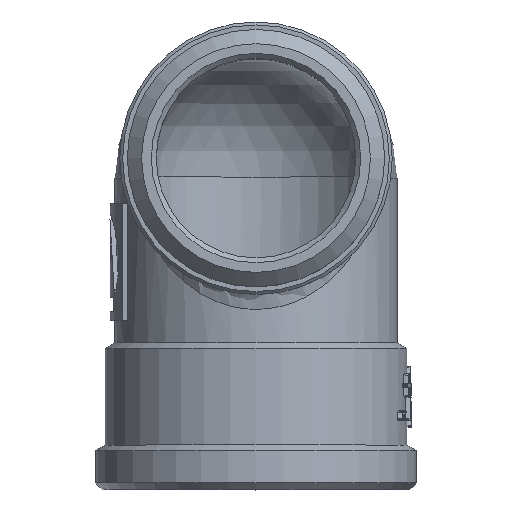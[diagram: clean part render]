
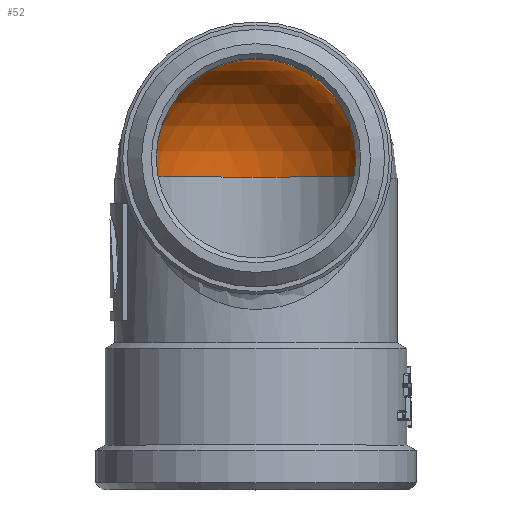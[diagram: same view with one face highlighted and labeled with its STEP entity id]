
A CAD part, top view. The second image highlights one B-rep face of the part: STEP entity #52.
In plain terms, the highlighted spherical face has radius 12.1 mm.
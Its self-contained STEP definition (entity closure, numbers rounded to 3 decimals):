
#52=ADVANCED_FACE('',(#376),#378,.F.);
#376=FACE_BOUND('',#377,.T.);
#377=EDGE_LOOP('',(#2515,#2516,#2517,#2518));
#378=SPHERICAL_SURFACE('',#379,12.1);
#379=AXIS2_PLACEMENT_3D('',#380,#381,#382);
#380=CARTESIAN_POINT('',(0.,-1.85,0.));
#381=DIRECTION('',(0.,-1.,0.));
#382=DIRECTION('',(1.,0.,0.));
#2515=ORIENTED_EDGE('',*,*,#4342,.T.);
#2516=ORIENTED_EDGE('',*,*,#4339,.F.);
#2517=ORIENTED_EDGE('',*,*,#4338,.F.);
#2518=ORIENTED_EDGE('',*,*,#4343,.T.);
#4338=EDGE_CURVE('',#5057,#5059,#5060,.T.);
#4339=EDGE_CURVE('',#5059,#5056,#5061,.F.);
#4342=EDGE_CURVE('',#5066,#5056,#5067,.T.);
#4343=EDGE_CURVE('',#5057,#5066,#5068,.T.);
#5056=VERTEX_POINT('',#6275);
#5057=VERTEX_POINT('',#6276);
#5059=VERTEX_POINT('',#6392);
#5060=B_SPLINE_CURVE_WITH_KNOTS('',3,
(#6393,#6394,#6395,#6396,#6397,#6398,#6399,#6400,#6401,#6402,#6403,#6404,#6405,#6406,
#6407,#6408,#6409,#6410,#6411,#6412,#6413,#6414,#6415,#6416,#6417,#6418,#6419,#6420,
#6421,#6422,#6423,#6424,#6425),
.UNSPECIFIED.,.F.,.F.,
(4,1,1,1,1,1,1,1,1,1,1,1,1,1,1,1,1,1,1,1,1,1,1,1,1,1,1,1,1,1,4),
(0.,0.014,0.027,0.041,0.055,
0.069,0.083,0.097,0.101,0.111,
0.126,0.14,0.155,0.17,0.186,
0.21,0.247,0.3,0.359,0.42,
0.479,0.535,0.591,0.648,0.71,
0.771,0.829,0.878,0.921,0.96,
1.),
.UNSPECIFIED.);
#5061=B_SPLINE_CURVE_WITH_KNOTS('',3,
(#6426,#6427,#6428,#6429,#6430,#6431,#6432,#6433,#6434,#6435,#6436,#6437,#6438,#6439,
#6440,#6441,#6442,#6443,#6444,#6445,#6446,#6447,#6448,#6449,#6450,#6451,#6452,#6453,
#6454,#6455,#6456,#6457,#6458),
.UNSPECIFIED.,.F.,.F.,
(4,1,1,1,1,1,1,1,1,1,1,1,1,1,1,1,1,1,1,1,1,1,1,1,1,1,1,1,1,1,4),
(0.,0.015,0.03,0.045,0.06,
0.076,0.091,0.101,0.106,0.122,
0.137,0.153,0.169,0.185,0.2,
0.226,0.263,0.317,0.376,0.438,
0.497,0.554,0.61,0.667,0.727,
0.786,0.841,0.887,0.926,0.963,
1.),
.UNSPECIFIED.);
#5066=VERTEX_POINT('',#6469);
#5067=CIRCLE('',#6470,12.1);
#5068=CIRCLE('',#6474,12.1);
#6275=CARTESIAN_POINT('',(10.082,-1.85,6.691));
#6276=CARTESIAN_POINT('',(-10.082,-1.85,6.691));
#6392=CARTESIAN_POINT('',(0.,10.25,0.));
#6393=CARTESIAN_POINT('',(-10.082,-1.85,6.691));
#6394=CARTESIAN_POINT('',(-10.097,-1.768,6.668));
#6395=CARTESIAN_POINT('',(-10.125,-1.603,6.622));
#6396=CARTESIAN_POINT('',(-10.161,-1.354,6.552));
#6397=CARTESIAN_POINT('',(-10.192,-1.102,6.481));
#6398=CARTESIAN_POINT('',(-10.216,-0.849,6.408));
#6399=CARTESIAN_POINT('',(-10.234,-0.593,6.334));
#6400=CARTESIAN_POINT('',(-10.246,-0.335,6.258));
#6401=CARTESIAN_POINT('',(-10.25,-0.137,6.199));
#6402=CARTESIAN_POINT('',(-10.25,0.038,6.147));
#6403=CARTESIAN_POINT('',(-10.249,0.215,6.094));
#6404=CARTESIAN_POINT('',(-10.241,0.456,6.02));
#6405=CARTESIAN_POINT('',(-10.226,0.725,5.937));
#6406=CARTESIAN_POINT('',(-10.203,0.996,5.852));
#6407=CARTESIAN_POINT('',(-10.172,1.27,5.764));
#6408=CARTESIAN_POINT('',(-10.127,1.6,5.658));
#6409=CARTESIAN_POINT('',(-10.046,2.059,5.506));
#6410=CARTESIAN_POINT('',(-9.89,2.734,5.276));
#6411=CARTESIAN_POINT('',(-9.617,3.595,4.966));
#6412=CARTESIAN_POINT('',(-9.203,4.556,4.596));
#6413=CARTESIAN_POINT('',(-8.675,5.494,4.201));
#6414=CARTESIAN_POINT('',(-8.064,6.355,3.803));
#6415=CARTESIAN_POINT('',(-7.394,7.123,3.409));
#6416=CARTESIAN_POINT('',(-6.659,7.814,3.011));
#6417=CARTESIAN_POINT('',(-5.839,8.446,2.595));
#6418=CARTESIAN_POINT('',(-4.929,9.009,2.158));
#6419=CARTESIAN_POINT('',(-3.967,9.471,1.717));
#6420=CARTESIAN_POINT('',(-3.03,9.807,1.301));
#6421=CARTESIAN_POINT('',(-2.179,10.027,0.93));
#6422=CARTESIAN_POINT('',(-1.416,10.16,0.603));
#6423=CARTESIAN_POINT('',(-0.702,10.234,0.298));
#6424=CARTESIAN_POINT('',(-0.234,10.25,0.099));
#6425=CARTESIAN_POINT('',(0.,10.25,0.));
#6426=CARTESIAN_POINT('',(10.082,-1.85,6.691));
#6427=CARTESIAN_POINT('',(10.098,-1.759,6.666));
#6428=CARTESIAN_POINT('',(10.129,-1.576,6.615));
#6429=CARTESIAN_POINT('',(10.169,-1.3,6.537));
#6430=CARTESIAN_POINT('',(10.2,-1.023,6.458));
#6431=CARTESIAN_POINT('',(10.224,-0.744,6.378));
#6432=CARTESIAN_POINT('',(10.241,-0.464,6.296));
#6433=CARTESIAN_POINT('',(10.249,-0.216,6.223));
#6434=CARTESIAN_POINT('',(10.25,-0.027,6.167));
#6435=CARTESIAN_POINT('',(10.249,0.162,6.11));
#6436=CARTESIAN_POINT('',(10.244,0.385,6.042));
#6437=CARTESIAN_POINT('',(10.229,0.67,5.954));
#6438=CARTESIAN_POINT('',(10.207,0.955,5.865));
#6439=CARTESIAN_POINT('',(10.176,1.241,5.774));
#6440=CARTESIAN_POINT('',(10.137,1.528,5.681));
#6441=CARTESIAN_POINT('',(10.081,1.869,5.569));
#6442=CARTESIAN_POINT('',(9.986,2.337,5.412));
#6443=CARTESIAN_POINT('',(9.807,3.019,5.175));
#6444=CARTESIAN_POINT('',(9.505,3.881,4.859));
#6445=CARTESIAN_POINT('',(9.06,4.836,4.482));
#6446=CARTESIAN_POINT('',(8.5,5.763,4.081));
#6447=CARTESIAN_POINT('',(7.858,6.609,3.678));
#6448=CARTESIAN_POINT('',(7.159,7.358,3.279));
#6449=CARTESIAN_POINT('',(6.402,8.026,2.878));
#6450=CARTESIAN_POINT('',(5.57,8.625,2.464));
#6451=CARTESIAN_POINT('',(4.665,9.147,2.035));
#6452=CARTESIAN_POINT('',(3.727,9.566,1.609));
#6453=CARTESIAN_POINT('',(2.832,9.865,1.214));
#6454=CARTESIAN_POINT('',(2.03,10.056,0.866));
#6455=CARTESIAN_POINT('',(1.319,10.172,0.561));
#6456=CARTESIAN_POINT('',(0.654,10.236,0.278));
#6457=CARTESIAN_POINT('',(0.218,10.25,0.093));
#6458=CARTESIAN_POINT('',(0.,10.25,0.));
#6469=CARTESIAN_POINT('',(12.1,-1.85,0.));
#6470=AXIS2_PLACEMENT_3D('',#6471,#6472,#6473);
#6471=CARTESIAN_POINT('',(0.,-1.85,0.));
#6472=DIRECTION('',(0.,-1.,0.));
#6473=DIRECTION('',(1.,0.,0.));
#6474=AXIS2_PLACEMENT_3D('',#6475,#6476,#6477);
#6475=CARTESIAN_POINT('',(0.,-1.85,0.));
#6476=DIRECTION('',(0.,-1.,0.));
#6477=DIRECTION('',(-0.833,0.,0.553));
